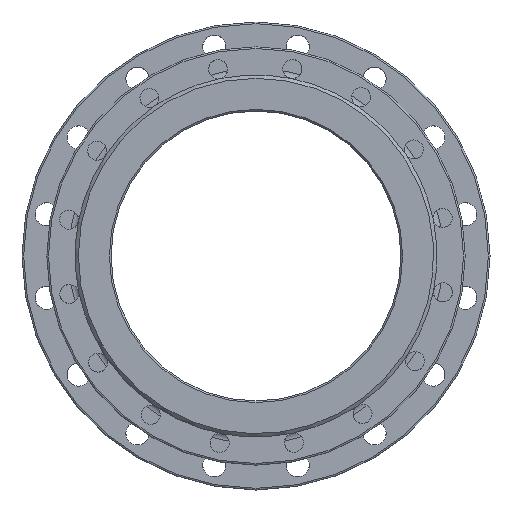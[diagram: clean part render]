
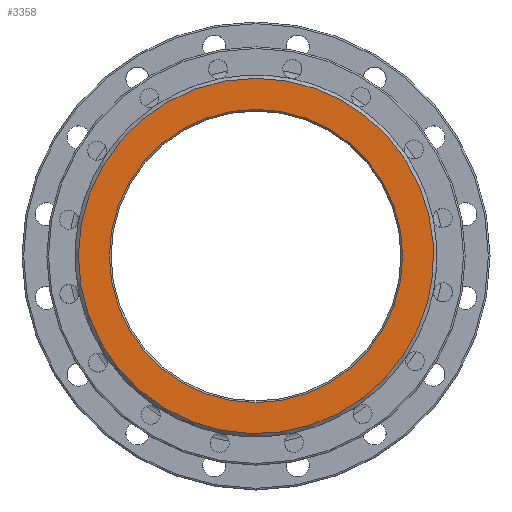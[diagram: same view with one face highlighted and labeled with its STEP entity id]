
A CAD part, left-side view. The second image highlights one B-rep face of the part: STEP entity #3358.
In plain terms, the highlighted planar face has unit normal (-1, 0, 0).
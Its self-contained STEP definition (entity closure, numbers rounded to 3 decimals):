
#156 = DIRECTION ( 'NONE',  ( -1., 0., 0. ) ) ;
#159 = CIRCLE ( 'NONE', #2020, 177. ) ;
#178 = ORIENTED_EDGE ( 'NONE', *, *, #3608, .T. ) ;
#180 = CARTESIAN_POINT ( 'NONE',  ( 0., 0., 0. ) ) ;
#361 = CARTESIAN_POINT ( 'NONE',  ( 0., 0., 214.5 ) ) ;
#432 = CARTESIAN_POINT ( 'NONE',  ( 0., 0., 0. ) ) ;
#604 = EDGE_CURVE ( 'NONE', #2260, #2260, #159, .T. ) ;
#774 = CARTESIAN_POINT ( 'NONE',  ( 0., 0., -177. ) ) ;
#788 = ORIENTED_EDGE ( 'NONE', *, *, #604, .T. ) ;
#819 = AXIS2_PLACEMENT_3D ( 'NONE', #180, #156, #2969 ) ;
#976 = DIRECTION ( 'NONE',  ( 1., 0., 0. ) ) ;
#1286 = PLANE ( 'NONE',  #2554 ) ;
#1367 = EDGE_LOOP ( 'NONE', ( #178 ) ) ;
#1869 = CARTESIAN_POINT ( 'NONE',  ( 0., 175., 0. ) ) ;
#2020 = AXIS2_PLACEMENT_3D ( 'NONE', #432, #976, #3275 ) ;
#2037 = VERTEX_POINT ( 'NONE', #361 ) ;
#2260 = VERTEX_POINT ( 'NONE', #774 ) ;
#2424 = CIRCLE ( 'NONE', #819, 214.5 ) ;
#2554 = AXIS2_PLACEMENT_3D ( 'NONE', #1869, #3294, #3039 ) ;
#2695 = EDGE_LOOP ( 'NONE', ( #788 ) ) ;
#2969 = DIRECTION ( 'NONE',  ( 0., 0., 1. ) ) ;
#3039 = DIRECTION ( 'NONE',  ( 0., 0., -1. ) ) ;
#3149 = FACE_BOUND ( 'NONE', #2695, .T. ) ;
#3275 = DIRECTION ( 'NONE',  ( 0., 0., -1. ) ) ;
#3294 = DIRECTION ( 'NONE',  ( 1., 0., 0. ) ) ;
#3358 = ADVANCED_FACE ( 'NONE', ( #3149, #3615 ), #1286, .F. ) ;
#3608 = EDGE_CURVE ( 'NONE', #2037, #2037, #2424, .T. ) ;
#3615 = FACE_OUTER_BOUND ( 'NONE', #1367, .T. ) ;
